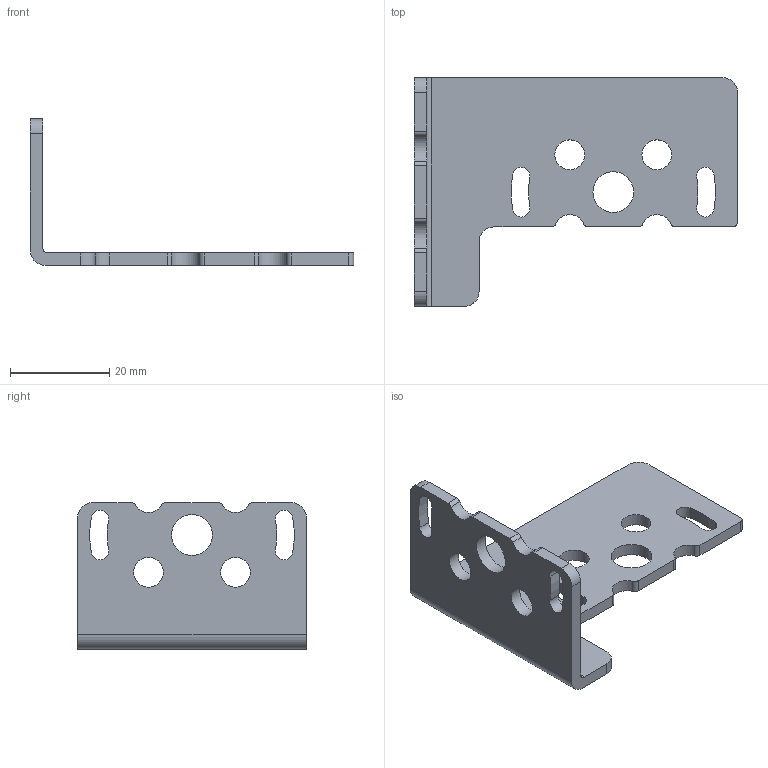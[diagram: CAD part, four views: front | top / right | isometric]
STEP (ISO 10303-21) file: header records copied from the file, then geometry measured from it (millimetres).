
FILE_DESCRIPTION(/* description */ (''),/* implementation_level */ '2;1');
FILE_NAME(/* name */ '281080201_c.stp',/* time_stamp */ '2018-10-29T09:13:37+01:00',/* author */ (''),/* organization */ (''),/* preprocessor_version */ 'ST-DEVELOPER v16',/* originating_system */ 'SIEMENS PLM Software NX 10.0',/* authorisation */ '');
FILE_SCHEMA (('AP203_CONFIGURATION_CONTROLLED_3D_DESIGN_OF_MECHANICAL_PARTS_AND_ASSEMBLIES_MIM_LF { 1 0 10303 403 2 1 2}'));
Length unit declared in the file: millimetre
Products named in the file (1): mgia1C14DA1Dcod0
Bounding box: 65 x 46 x 29.5 mm (x, y, z)
Volume: 7434.7 mm3; surface area: 7177.5 mm2
Topology: 1 solids, 1 shells, 56 faces, 164 edges, 110 vertices
Faces by surface type: cylinder 42, plane 14
Full cylindrical faces by diameter (mm): 6 x4, 8.2 x2
Entity records: 1992 total; most frequent: DIRECTION 354, CARTESIAN_POINT 321, ORIENTED_EDGE 312, EDGE_CURVE 156, AXIS2_PLACEMENT_3D 141, VERTEX_POINT 108, CIRCLE 84, EDGE_LOOP 82
